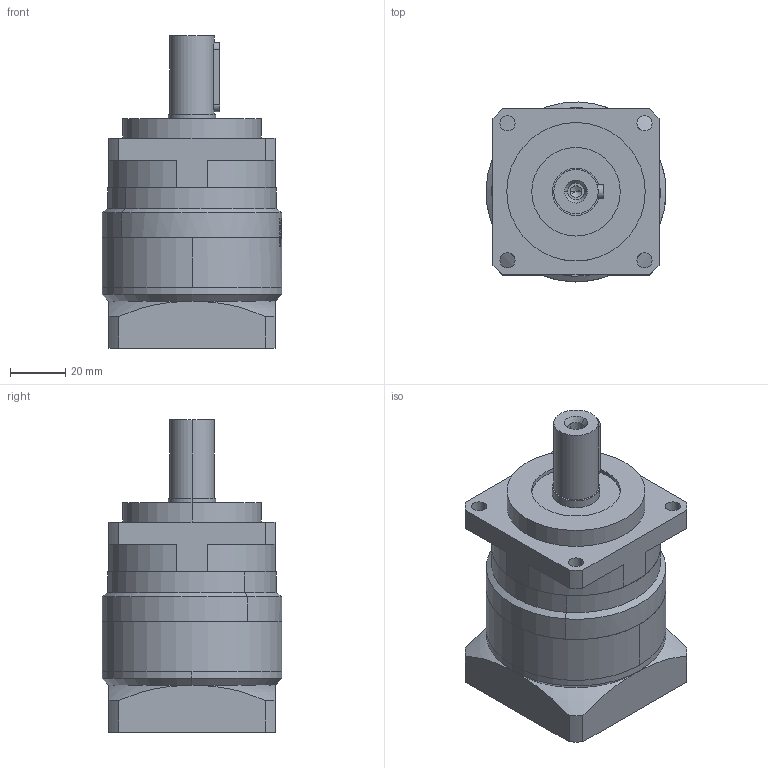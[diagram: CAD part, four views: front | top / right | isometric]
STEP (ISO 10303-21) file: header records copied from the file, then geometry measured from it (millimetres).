
FILE_DESCRIPTION (( 'STEP AP203' ), '1' );
FILE_NAME ('PLM060 -L1-14-50-70.STEP', '2022-07-04T09:27:26', ( 'Windows User' ), ( 'P R C' ), 'SwSTEP 2.0', 'SolidWorks 2016', '' );
FILE_SCHEMA (( 'CONFIG_CONTROL_DESIGN' ));
Length unit declared in the file: millimetre
Products named in the file (8): PLM60 上蓋板_剖視; PLM60 狟屳啣; 囀鞠褒蹟佪-M4℅16; 邧埴瑩 5x5x25; 粣創-61904 25x42x9; PLM60蟀諉啣; PLM060 -L1-14-50-70; PLM60 κｳﾝﾈｦ_ﾒｻｼｶﾄﾚｳﾝﾈｦ
Assembly tree (7 placements, depth 2):
  PLM060 -L1-14-50-70
    PLM60 κｳﾝﾈｦ_ﾒｻｼｶﾄﾚｳﾝﾈｦ
    PLM60 上蓋板_剖視
    PLM60 狟屳啣
    囀鞠褒蹟佪-M4℅16
    邧埴瑩 5x5x25
    粣創-61904 25x42x9
    PLM60蟀諉啣
Bounding box: 65 x 65 x 113 mm (x, y, z)
Volume: 238617.5 mm3; surface area: 68345.5 mm2
Topology: 7 solids, 7 shells, 993 faces, 2765 edges, 1834 vertices
Faces by surface type: plane 506, cylinder 169, bspline 136, sphere 104, torus 60, cone 18
Entity records: 41566 total; most frequent: CARTESIAN_POINT 16210, ORIENTED_EDGE 5510, DIRECTION 4543, EDGE_CURVE 2755, VERTEX_POINT 1834, AXIS2_PLACEMENT_3D 1627, LINE 1289, VECTOR 1289
